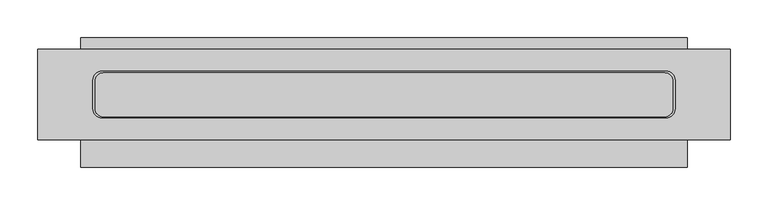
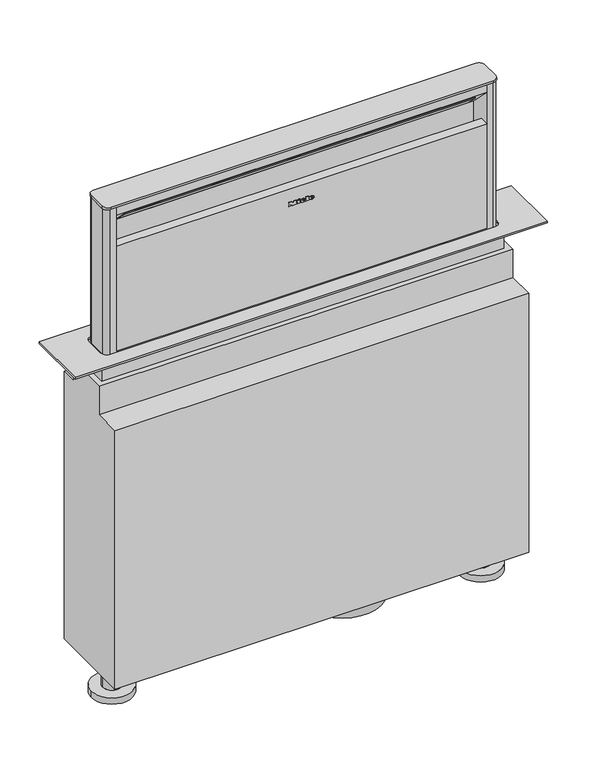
"""IFC4 building model written with IfcOpenShell, lengths in millimetres: proxy geometry, 12963280_CH_DAD4370_OBSW : 28D4370B_CH_12963280_DAD4370_OBSW."""

from ifc_helpers import new_model, si_unit, point, frame, frame_2d, origin, origin_with_axes, place, context, project, spatial, polyline, circle_curve, ellipse_curve, trimmed, segment, composite_curve, outline, extrude, faceted_brep, source, transform, mapped, element, save
from ifc_brep_helpers import plane_surface, cylinder_surface, revolved_surface, extruded_surface, advanced_brep


def specialty_equipment_7072770c(model_context):
    return source(origin(), model_context, "Body", "SolidModel", [
        extrude(outline(polyline([(190.696, -25.0), (190.696, -24.032), (185.344, -24.032), (185.344, -25.0), (184.0, -25.0), (184.0, -21.48), (185.344, -21.48), (185.344, -22.44), (188.7471247, -22.44), (184.0, -18.864), (188.8152223, -15.272), (185.344, -15.272), (185.344, -16.256), (184.0, -16.256), (184.0, -9.872), (185.344, -9.872), (185.344, -10.888), (190.696, -10.888), (190.696, -9.872), (192.0, -9.872), (192.0, -14.744), (189.0, -17.08), (192.0, -19.424), (192.0, -25.0), (190.696, -25.0)])), frame((0.0, -104.0, 0.0), z_axis=(0.0, 1.0, 0.0), x_axis=(0.0, 0.0, 1.0)), (0.0, 0.0, 1.0), 1.0),
        extrude(outline(polyline([(190.696, 7.464), (190.696, 8.424), (185.344, 8.424), (185.344, 7.464), (184.0, 7.464), (184.0, 13.952), (185.344, 13.952), (185.344, 12.968), (192.0, 12.968), (192.0, 7.464), (190.696, 7.464)])), frame((0.0, -104.0, 0.0), z_axis=(0.0, 1.0, 0.0), x_axis=(0.0, 0.0, 1.0)), (0.0, 0.0, 1.0), 1.0),
        extrude(outline(polyline([(191.528, -7.08), (190.232, -6.472), (191.496, -3.76), (192.792, -4.36), (191.528, -7.08)])), frame((0.0, -104.0, 0.0), z_axis=(0.0, 1.0, 0.0), x_axis=(0.0, 0.0, 1.0)), (0.0, 0.0, 1.0), 1.0),
        extrude(outline(polyline([(190.056, -9.056), (188.624, -9.056), (188.624, -8.104), (185.344, -8.104), (185.344, -9.056), (184.0, -9.056), (184.0, -2.744), (185.344, -2.744), (185.344, -3.672), (190.056, -3.672), (190.056, -9.056)])), frame((0.0, -104.0, 0.0), z_axis=(0.0, 1.0, 0.0), x_axis=(0.0, 0.0, 1.0)), (0.0, 0.0, 1.0), 1.0),
        advanced_brep(
        [(1.664, -104.0, 185.896), (1.664, -104.0, 186.704), (7.016, -104.0, 186.704), (-2.296, -104.0, 186.704), (-0.096, -104.0, 184.0), (6.88, -104.0, 185.896), (4.464, -104.0, 185.896), (2.56, -104.0, 185.0), (1.664, -104.0, 187.728), (1.664, -104.0, 188.6), (3.032, -104.0, 188.6), (3.032, -104.0, 187.728), (1.664, -103.0, 185.896), (2.56, -103.0, 185.0), (4.464, -103.0, 185.896), (6.88, -103.0, 185.896), (-0.096, -103.0, 184.0), (-2.296, -103.0, 186.704), (7.016, -103.0, 186.704), (1.664, -103.0, 186.704), (1.664, -103.0, 187.728), (3.032, -103.0, 187.728), (3.032, -103.0, 188.6), (1.664, -103.0, 188.6)],
        [
            (0, 1),
            (1, 2),
            (2, 3, ellipse_curve(frame((2.36, -104.0, 186.704), z_axis=(0.0, -1.0, 0.0), x_axis=(-1.0, 0.0, 0.0)), 4.656, 3.848)),
            (3, 4, circle_curve(frame((0.8000436, -104.0, 186.976), z_axis=(0.0, -1.0, 0.0), x_axis=(0.0, 0.0, -1.0)), 3.1079688)),
            (4, 5, circle_curve(frame((2.2667936, -104.0, 189.088), z_axis=(0.0, -1.0, 0.0), x_axis=(0.0, 0.0, -1.0)), 5.6098607)),
            (5, 6),
            (6, 7, circle_curve(frame((2.9510588, -104.0, 186.64), z_axis=(0.0, 1.0, 0.0), x_axis=(0.0, 0.0, -1.0)), 1.6859795)),
            (7, 0, circle_curve(frame((2.56, -104.0, 185.896), z_axis=(0.0, 1.0, 0.0), x_axis=(0.0, 0.0, -1.0)), 0.896)),
            (8, 9),
            (9, 10, circle_curve(frame((2.348, -104.0, 188.6), z_axis=(0.0, 1.0, 0.0), x_axis=(0.0, 0.0, -1.0)), 0.684)),
            (10, 11),
            (11, 8),
            (12, 13, circle_curve(frame((2.56, -103.0, 185.896), z_axis=(0.0, -1.0, 0.0), x_axis=(0.0, 0.0, -1.0)), 0.896)),
            (13, 14, circle_curve(frame((2.9510588, -103.0, 186.64), z_axis=(0.0, -1.0, 0.0), x_axis=(0.0, 0.0, -1.0)), 1.6859795)),
            (14, 15),
            (15, 16, circle_curve(frame((2.2667936, -103.0, 189.088), z_axis=(0.0, 1.0, 0.0), x_axis=(0.0, 0.0, -1.0)), 5.6098607)),
            (16, 17, circle_curve(frame((0.8000436, -103.0, 186.976), z_axis=(0.0, 1.0, 0.0), x_axis=(0.0, 0.0, -1.0)), 3.1079688)),
            (17, 18, ellipse_curve(frame((2.36, -103.0, 186.704), z_axis=(0.0, 1.0, 0.0), x_axis=(-1.0, 0.0, 0.0)), 4.656, 3.848)),
            (18, 19),
            (19, 12),
            (20, 21),
            (21, 22),
            (22, 23, circle_curve(frame((2.348, -103.0, 188.6), z_axis=(0.0, -1.0, 0.0), x_axis=(0.0, 0.0, -1.0)), 0.684)),
            (23, 20),
            (0, 12),
            (19, 1),
            (18, 2),
            (5, 15),
            (14, 6),
            (17, 3),
            (13, 7),
            (16, 4),
            (8, 20),
            (23, 9),
            (22, 10),
            (21, 11),
        ],
        [
            plane_surface(frame((1.664, -104.0, 186.704), z_axis=(0.0, -1.0, 0.0), x_axis=(0.0, 0.0, 1.0))),
            plane_surface(frame((1.664, -103.0, 186.704), z_axis=(0.0, 1.0, 0.0), x_axis=(0.0, 0.0, -1.0))),
            plane_surface(frame((1.664, -104.0, 185.896), z_axis=(1.0, 0.0, 0.0), x_axis=(0.0, 1.0, 0.0))),
            plane_surface(frame((1.664, -104.0, 186.704), z_axis=(0.0, 0.0, -1.0), x_axis=(0.0, 1.0, 0.0))),
            plane_surface(frame((6.88, -104.0, 185.896), z_axis=(0.0, 0.0, 1.0), x_axis=(0.0, 1.0, 0.0))),
            extruded_surface(trimmed(ellipse_curve(frame((2.36, -102.0, 186.704), z_axis=(0.0, -1.0, 0.0), x_axis=(-1.0, 0.0, 0.0)), 4.656, 3.848), [point((7.016, -102.0, 186.704))], [point((-2.296, -102.0, 186.704))], True, "CARTESIAN"), (0.0, -1.0, 0.0), 1.0),
            revolved_surface(polyline([(2.9510588, -103.0, 184.95402049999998), (2.9510588, -104.0, 184.95402049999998)]), (2.9510588, -103.0, 186.64), (0.0, 1.0, 0.0)),
            revolved_surface(polyline([(2.56, -103.0, 185.0), (2.56, -104.0, 185.0)]), (2.56, -103.0, 185.896), (0.0, 1.0, 0.0)),
            cylinder_surface(frame((0.8000436, -103.0, 186.976), z_axis=(0.0, -1.0, 0.0), x_axis=(0.0, 0.0, -1.0)), 3.1079688),
            cylinder_surface(frame((2.2667936, -103.0, 189.088), z_axis=(0.0, -1.0, 0.0), x_axis=(0.0, 0.0, -1.0)), 5.6098607),
            plane_surface(frame((1.664, -104.0, 187.728), z_axis=(1.0, 0.0, 0.0), x_axis=(0.0, 1.0, 0.0))),
            revolved_surface(polyline([(2.348, -103.0, 187.916), (2.348, -104.0, 187.916)]), (2.348, -103.0, 188.6), (0.0, 1.0, 0.0)),
            plane_surface(frame((3.032, -104.0, 188.6), z_axis=(-1.0, 0.0, 0.0), x_axis=(0.0, 1.0, 0.0))),
            plane_surface(frame((3.032, -104.0, 187.728), z_axis=(0.0, 0.0, 1.0), x_axis=(0.0, 1.0, 0.0))),
        ],
        [
            (0, [[1, 2, 3, 4, 5, 6, 7, 8], [9, 10, 11, 12]]),
            (1, [[13, 14, 15, 16, 17, 18, 19, 20], [21, 22, 23, 24]]),
            (2, [[-1, 25, -20, 26]]),
            (3, [[-2, -26, -19, 27]]),
            (4, [[-6, 28, -15, 29]]),
            (5, [[-3, -27, -18, 30]]),
            (6, [[-7, -29, -14, 31]]),
            (7, [[-8, -31, -13, -25]]),
            (8, [[-4, -30, -17, 32]]),
            (9, [[-5, -32, -16, -28]]),
            (10, [[-9, 33, -24, 34]]),
            (11, [[-10, -34, -23, 35]]),
            (12, [[-11, -35, -22, 36]]),
            (13, [[-12, -36, -21, -33]]),
        ],
    ),
        advanced_brep(
        [(18.36, -104.0, 185.896), (18.36, -104.0, 186.704), (23.712, -104.0, 186.704), (14.4, -104.0, 186.704), (16.6, -104.0, 184.0), (23.576, -104.0, 185.896), (21.16, -104.0, 185.896), (19.256, -104.0, 185.0), (18.36, -104.0, 187.728), (18.36, -104.0, 188.6), (19.728, -104.0, 188.6), (19.728, -104.0, 187.728), (18.36, -103.0, 185.896), (19.256, -103.0, 185.0), (21.16, -103.0, 185.896), (23.576, -103.0, 185.896), (16.6, -103.0, 184.0), (14.4, -103.0, 186.704), (23.712, -103.0, 186.704), (18.36, -103.0, 186.704), (18.36, -103.0, 187.728), (19.728, -103.0, 187.728), (19.728, -103.0, 188.6), (18.36, -103.0, 188.6)],
        [
            (0, 1),
            (1, 2),
            (2, 3, ellipse_curve(frame((19.056, -104.0, 186.704), z_axis=(0.0, -1.0, 0.0), x_axis=(-1.0, 0.0, 0.0)), 4.656, 3.848)),
            (3, 4, circle_curve(frame((17.4960436, -104.0, 186.976), z_axis=(0.0, -1.0, 0.0), x_axis=(0.0, 0.0, -1.0)), 3.1079688)),
            (4, 5, circle_curve(frame((18.9627936, -104.0, 189.088), z_axis=(0.0, -1.0, 0.0), x_axis=(0.0, 0.0, -1.0)), 5.6098607)),
            (5, 6),
            (6, 7, circle_curve(frame((19.6470588, -104.0, 186.64), z_axis=(0.0, 1.0, 0.0), x_axis=(0.0, 0.0, -1.0)), 1.6859795)),
            (7, 0, circle_curve(frame((19.256, -104.0, 185.896), z_axis=(0.0, 1.0, 0.0), x_axis=(0.0, 0.0, -1.0)), 0.896)),
            (8, 9),
            (9, 10, circle_curve(frame((19.044, -104.0, 188.6), z_axis=(0.0, 1.0, 0.0), x_axis=(0.0, 0.0, -1.0)), 0.684)),
            (10, 11),
            (11, 8),
            (12, 13, circle_curve(frame((19.256, -103.0, 185.896), z_axis=(0.0, -1.0, 0.0), x_axis=(0.0, 0.0, -1.0)), 0.896)),
            (13, 14, circle_curve(frame((19.6470588, -103.0, 186.64), z_axis=(0.0, -1.0, 0.0), x_axis=(0.0, 0.0, -1.0)), 1.6859795)),
            (14, 15),
            (15, 16, circle_curve(frame((18.9627936, -103.0, 189.088), z_axis=(0.0, 1.0, 0.0), x_axis=(0.0, 0.0, -1.0)), 5.6098607)),
            (16, 17, circle_curve(frame((17.4960436, -103.0, 186.976), z_axis=(0.0, 1.0, 0.0), x_axis=(0.0, 0.0, -1.0)), 3.1079688)),
            (17, 18, ellipse_curve(frame((19.056, -103.0, 186.704), z_axis=(0.0, 1.0, 0.0), x_axis=(-1.0, 0.0, 0.0)), 4.656, 3.848)),
            (18, 19),
            (19, 12),
            (20, 21),
            (21, 22),
            (22, 23, circle_curve(frame((19.044, -103.0, 188.6), z_axis=(0.0, -1.0, 0.0), x_axis=(0.0, 0.0, -1.0)), 0.684)),
            (23, 20),
            (0, 12),
            (19, 1),
            (18, 2),
            (5, 15),
            (14, 6),
            (17, 3),
            (13, 7),
            (16, 4),
            (8, 20),
            (23, 9),
            (22, 10),
            (21, 11),
        ],
        [
            plane_surface(frame((18.36, -104.0, 186.704), z_axis=(0.0, -1.0, 0.0), x_axis=(0.0, 0.0, 1.0))),
            plane_surface(frame((18.36, -103.0, 186.704), z_axis=(0.0, 1.0, 0.0), x_axis=(0.0, 0.0, -1.0))),
            plane_surface(frame((18.36, -104.0, 185.896), z_axis=(1.0, 0.0, 0.0), x_axis=(0.0, 1.0, 0.0))),
            plane_surface(frame((18.36, -104.0, 186.704), z_axis=(0.0, 0.0, -1.0), x_axis=(0.0, 1.0, 0.0))),
            plane_surface(frame((23.576, -104.0, 185.896), z_axis=(0.0, 0.0, 1.0), x_axis=(0.0, 1.0, 0.0))),
            extruded_surface(trimmed(ellipse_curve(frame((19.056, -102.0, 186.704), z_axis=(0.0, -1.0, 0.0), x_axis=(-1.0, 0.0, 0.0)), 4.656, 3.848), [point((23.712, -102.0, 186.704))], [point((14.4, -102.0, 186.704))], True, "CARTESIAN"), (0.0, -1.0, 0.0), 1.0),
            revolved_surface(polyline([(19.6470588, -103.0, 184.95402049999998), (19.6470588, -104.0, 184.95402049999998)]), (19.6470588, -103.0, 186.64), (0.0, 1.0, 0.0)),
            revolved_surface(polyline([(19.256, -103.0, 185.0), (19.256, -104.0, 185.0)]), (19.256, -103.0, 185.896), (0.0, 1.0, 0.0)),
            cylinder_surface(frame((17.4960436, -103.0, 186.976), z_axis=(0.0, -1.0, 0.0), x_axis=(0.0, 0.0, -1.0)), 3.1079688),
            cylinder_surface(frame((18.9627936, -103.0, 189.088), z_axis=(0.0, -1.0, 0.0), x_axis=(0.0, 0.0, -1.0)), 5.6098607),
            plane_surface(frame((18.36, -104.0, 187.728), z_axis=(1.0, 0.0, 0.0), x_axis=(0.0, 1.0, 0.0))),
            revolved_surface(polyline([(19.044, -103.0, 187.916), (19.044, -104.0, 187.916)]), (19.044, -103.0, 188.6), (0.0, 1.0, 0.0)),
            plane_surface(frame((19.728, -104.0, 188.6), z_axis=(-1.0, 0.0, 0.0), x_axis=(0.0, 1.0, 0.0))),
            plane_surface(frame((19.728, -104.0, 187.728), z_axis=(0.0, 0.0, 1.0), x_axis=(0.0, 1.0, 0.0))),
        ],
        [
            (0, [[1, 2, 3, 4, 5, 6, 7, 8], [9, 10, 11, 12]]),
            (1, [[13, 14, 15, 16, 17, 18, 19, 20], [21, 22, 23, 24]]),
            (2, [[-1, 25, -20, 26]]),
            (3, [[-2, -26, -19, 27]]),
            (4, [[-6, 28, -15, 29]]),
            (5, [[-3, -27, -18, 30]]),
            (6, [[-7, -29, -14, 31]]),
            (7, [[-8, -31, -13, -25]]),
            (8, [[-4, -30, -17, 32]]),
            (9, [[-5, -32, -16, -28]]),
            (10, [[-9, 33, -24, 34]]),
            (11, [[-10, -34, -23, 35]]),
            (12, [[-11, -35, -22, 36]]),
            (13, [[-12, -36, -21, -33]]),
        ],
    ),
        extrude(outline(composite_curve([segment(trimmed(circle_curve(frame_2d((89.2, -85.8647958)), 75.0), [point((14.2, -85.8647958))], [point((164.2, -85.8647958))], False, "CARTESIAN"), True, "CONTINUOUS"), segment(trimmed(circle_curve(frame_2d((89.2, -85.8647958)), 75.0), [point((164.2, -85.8647958))], [point((14.2, -85.8647958))], False, "CARTESIAN"), True, "CONTINUOUS")], self_intersect=False)), frame((0.0, 0.0, -659.0), z_axis=(0.0, 0.0, 1.0), x_axis=(1.0, 0.0, 0.0)), (0.0, 0.0, 1.0), 25.0),
        extrude(outline(composite_curve([segment(trimmed(circle_curve(frame_2d((371.1814118, -57.4008786)), 11.0228003), [point((371.1814118, -46.3780783))], [point((382.2042121, -57.4008786))], False, "CARTESIAN"), True, "CONTINUOUS"), segment(polyline([(382.2042121, -57.4008786), (382.2042121, -93.3997352)]), True, "CONTINUOUS"), segment(trimmed(circle_curve(frame_2d((371.225869, -93.3997352)), 10.9783431), [point((382.2042121, -93.3997352))], [point((371.225869, -104.3780783))], False, "CARTESIAN"), True, "CONTINUOUS"), segment(polyline([(371.225869, -104.3780783), (-371.2377642, -104.3780783)]), True, "CONTINUOUS"), segment(trimmed(circle_curve(frame_2d((-371.2377642, -93.4116304)), 10.9664479), [point((-371.2377642, -104.3780783))], [point((-382.2042121, -93.4116304))], False, "CARTESIAN"), True, "CONTINUOUS"), segment(polyline([(-382.2042121, -93.4116304), (-382.2042121, -57.3636674)]), True, "CONTINUOUS"), segment(trimmed(circle_curve(frame_2d((-371.218623, -57.3636674)), 10.9855891), [point((-382.2042121, -57.3636674))], [point((-371.218623, -46.3780783))], False, "CARTESIAN"), True, "CONTINUOUS"), segment(polyline([(-371.218623, -46.3780783), (371.1814118, -46.3780783)]), True, "CONTINUOUS")], self_intersect=False)), frame((0.0, 0.0, 299.5725648), z_axis=(0.0, 0.0, 1.0), x_axis=(1.0, 0.0, 0.0)), (0.0, 0.0, 1.0), 4.4274352),
        advanced_brep(
        [(371.2042121, -47.3780783, 299.5725648), (-371.2042121, -47.3780783, 299.5725648), (-381.2042121, -57.3780783, 299.5725648), (-381.2042121, -93.3780783, 299.5725648), (-371.2042121, -103.3780783, 299.5725648), (-359.9100986, -103.3780783, 299.5725648), (-359.9100986, -103.1609893, 299.5725648), (359.9100986, -103.1609893, 299.5725648), (359.9100986, -103.3780783, 299.5725648), (371.2042121, -103.3780783, 299.5725648), (381.2042121, -93.3780783, 299.5725648), (381.2042121, -57.3780783, 299.5725648), (371.2042121, -47.3780783, 0.0), (381.2042121, -57.3780783, 0.0), (381.2042121, -93.3780783, 0.0), (371.2042121, -103.3780783, 0.0), (-371.2042121, -103.3780783, 0.0), (-381.2042121, -93.3780783, 0.0), (-381.2042121, -57.3780783, 0.0), (-371.2042121, -47.3780783, 0.0), (359.9100986, -103.3780783, 4.0), (-359.9100986, -103.3780783, 4.0), (359.9100986, -58.0, 237.9815659), (359.9100986, -58.0, 147.0), (359.9100986, -79.1055209, 147.0), (359.9100986, -85.0, 219.0), (359.9100986, -103.1609893, 219.0), (359.9100986, -103.1609893, 4.0), (359.9100986, -103.1609893, 283.1425552), (-359.9100986, -85.0, 219.0), (-359.9100986, -79.1055209, 147.0), (-359.9100986, -58.0, 147.0), (-359.9100986, -58.0, 237.9815659), (-359.9100986, -103.1609893, 283.1425552), (-359.9100986, -103.1609893, 4.0), (-359.9100986, -103.1609893, 219.0)],
        [
            (0, 1),
            (1, 2, circle_curve(frame((-371.2042121, -57.3780783, 299.5725648), z_axis=(0.0, 0.0, 1.0), x_axis=(1.0, 0.0, 0.0)), 10.0)),
            (2, 3),
            (3, 4, circle_curve(frame((-371.2042121, -93.3780783, 299.5725648), z_axis=(0.0, 0.0, 1.0), x_axis=(1.0, 0.0, 0.0)), 10.0)),
            (4, 5),
            (5, 6),
            (6, 7),
            (7, 8),
            (8, 9),
            (9, 10, circle_curve(frame((371.2042121, -93.3780783, 299.5725648), z_axis=(0.0, 0.0, 1.0), x_axis=(1.0, 0.0, 0.0)), 10.0)),
            (10, 11),
            (11, 0, circle_curve(frame((371.2042121, -57.3780783, 299.5725648), z_axis=(0.0, 0.0, 1.0), x_axis=(1.0, 0.0, 0.0)), 10.0)),
            (12, 13, circle_curve(frame((371.2042121, -57.3780783, 0.0), z_axis=(0.0, 0.0, -1.0), x_axis=(1.0, 0.0, 0.0)), 10.0)),
            (13, 14),
            (14, 15, circle_curve(frame((371.2042121, -93.3780783, 0.0), z_axis=(0.0, 0.0, -1.0), x_axis=(1.0, 0.0, 0.0)), 10.0)),
            (15, 16),
            (16, 17, circle_curve(frame((-371.2042121, -93.3780783, 0.0), z_axis=(0.0, 0.0, -1.0), x_axis=(1.0, 0.0, 0.0)), 10.0)),
            (17, 18),
            (18, 19, circle_curve(frame((-371.2042121, -57.3780783, 0.0), z_axis=(0.0, 0.0, -1.0), x_axis=(1.0, 0.0, 0.0)), 10.0)),
            (19, 12),
            (0, 12),
            (19, 1),
            (2, 18),
            (17, 3),
            (15, 9),
            (8, 20),
            (20, 21),
            (21, 5),
            (4, 16),
            (10, 14),
            (13, 11),
            (22, 23),
            (23, 24),
            (24, 25),
            (25, 26),
            (26, 27),
            (27, 20),
            (7, 28),
            (28, 22),
            (29, 30),
            (30, 31),
            (31, 32),
            (32, 33),
            (33, 6),
            (21, 34),
            (34, 35),
            (35, 29),
            (32, 22),
            (28, 33),
            (25, 29),
            (35, 26),
            (24, 30),
            (23, 31),
            (34, 27),
        ],
        [
            plane_surface(frame((-371.2042121, -47.3780783, 299.5725648), z_axis=(0.0, 0.0, 1.0), x_axis=(-1.0, 0.0, 0.0))),
            plane_surface(frame((-371.2042121, -47.3780783, 0.0), z_axis=(0.0, 0.0, -1.0), x_axis=(1.0, 0.0, 0.0))),
            plane_surface(frame((371.2042121, -47.3780783, 299.5725648), z_axis=(0.0, 1.0, 0.0), x_axis=(0.0, 0.0, -1.0))),
            plane_surface(frame((-381.2042121, -57.3780783, 299.5725648), z_axis=(-1.0, 0.0, 0.0), x_axis=(0.0, 0.0, -1.0))),
            plane_surface(frame((-371.2042121, -103.3780783, 299.5725648), z_axis=(0.0, -1.0, 0.0), x_axis=(0.0, 0.0, -1.0))),
            plane_surface(frame((381.2042121, -93.3780783, 299.5725648), z_axis=(1.0, 0.0, 0.0), x_axis=(0.0, 0.0, -1.0))),
            cylinder_surface(frame((-371.2042121, -57.3780783, 0.0), z_axis=(0.0, 0.0, 1.0), x_axis=(1.0, 0.0, 0.0)), 10.0),
            cylinder_surface(frame((-371.2042121, -93.3780783, 0.0), z_axis=(0.0, 0.0, 1.0), x_axis=(1.0, 0.0, 0.0)), 10.0),
            cylinder_surface(frame((371.2042121, -93.3780783, 0.0), z_axis=(0.0, 0.0, 1.0), x_axis=(1.0, 0.0, 0.0)), 10.0),
            cylinder_surface(frame((371.2042121, -57.3780783, 0.0), z_axis=(0.0, 0.0, 1.0), x_axis=(1.0, 0.0, 0.0)), 10.0),
            plane_surface(frame((359.9100986, -94.4708552, 274.4524211), z_axis=(-1.0, 0.0, 0.0), x_axis=(0.0, -0.7071067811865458, 0.7071067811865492))),
            plane_surface(frame((-359.9100986, -94.4708552, 274.4524211), z_axis=(1.0, 0.0, 0.0), x_axis=(0.0, 0.7071067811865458, -0.7071067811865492))),
            plane_surface(frame((359.9100986, -58.0, 237.9815659), z_axis=(0.0, -0.7071067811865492, -0.7071067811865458), x_axis=(-1.0, 0.0, 0.0))),
            plane_surface(frame((359.9100986, -103.3780783, 219.0), z_axis=(0.0, 0.0, 1.0), x_axis=(-1.0, 0.0, 0.0))),
            plane_surface(frame((359.9100986, -85.0, 219.0), z_axis=(0.0, 0.9966655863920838, 0.08159478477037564), x_axis=(-1.0, 0.0, 0.0))),
            plane_surface(frame((359.9100986, -79.1055209, 147.0), z_axis=(0.0, 0.0, 1.0), x_axis=(-1.0, 0.0, 0.0))),
            plane_surface(frame((359.9100986, -58.0, 147.0), z_axis=(0.0, -1.0, 0.0), x_axis=(-1.0, 0.0, 0.0))),
            plane_surface(frame((268.1830979, -103.1609893, 4.0), z_axis=(0.0, -1.0, 0.0), x_axis=(-1.0, 0.0, 0.0))),
            plane_surface(frame((-359.9100986, -103.3780783, 4.0), z_axis=(0.0, 0.0, 1.0), x_axis=(0.0, 1.0, 0.0))),
        ],
        [
            (0, [[1, 2, 3, 4, 5, 6, 7, 8, 9, 10, 11, 12]]),
            (1, [[13, 14, 15, 16, 17, 18, 19, 20]]),
            (2, [[-1, 21, -20, 22]]),
            (3, [[-3, 23, -18, 24]]),
            (4, [[-16, 25, -9, 26, 27, 28, -5, 29]]),
            (5, [[-11, 30, -14, 31]]),
            (6, [[-2, -22, -19, -23]]),
            (7, [[-4, -24, -17, -29]]),
            (8, [[-10, -25, -15, -30]]),
            (9, [[-12, -31, -13, -21]]),
            (10, [[32, 33, 34, 35, 36, 37, -26, -8, 38, 39]]),
            (11, [[40, 41, 42, 43, 44, -6, -28, 45, 46, 47]]),
            (12, [[48, -39, 49, -43]]),
            (13, [[50, -47, 51, -35]]),
            (14, [[-34, 52, -40, -50]]),
            (15, [[-33, 53, -41, -52]]),
            (16, [[-32, -48, -42, -53]]),
            (17, [[-38, -7, -44, -49]]),
            (17, [[54, -36, -51, -46]]),
            (18, [[-54, -45, -27, -37]]),
        ],
    ),
        faceted_brep([(401.4936189, -32.3, -45.0), (-401.4936189, -32.3, -45.0), (-401.4936189, -117.7, -45.0), (401.4936189, -117.7, -45.0), (-390.0, -43.0, -45.0), (390.0, -43.0, -45.0), (390.0, -107.0, -45.0), (-390.0, -107.0, -45.0), (401.4936189, 0.0, -634.0), (401.4936189, -171.0, -634.0), (-401.4936189, -171.0, -634.0), (-401.4936189, 0.0, -634.0), (-401.4936189, 0.0, -85.0), (401.4936189, 0.0, -85.0), (401.4936189, -171.0, -103.0), (-401.4936189, -171.0, -103.0), (390.0, -43.0, 0.0), (-390.0, -43.0, 0.0), (-390.0, -107.0, 0.0), (390.0, -107.0, 0.0), (-401.4936189, -117.7, -103.0), (-401.4936189, -32.3, -85.0), (401.4936189, -32.3, -85.0), (401.4936189, -117.7, -103.0)], [[[0, 1, 2, 3], [4, 5, 6, 7]], [[8, 9, 10, 11]], [[8, 11, 12, 13]], [[10, 9, 14, 15]], [[16, 17, 18, 19]], [[17, 16, 5, 4]], [[18, 17, 4, 7]], [[19, 18, 7, 6]], [[16, 19, 6, 5]], [[11, 10, 15, 20, 2, 1, 21, 12]], [[9, 8, 13, 22, 0, 3, 23, 14]], [[23, 20, 15, 14]], [[20, 23, 3, 2]], [[22, 21, 1, 0]], [[21, 22, 13, 12]]]),
        extrude(outline(polyline([(458.0, -15.0), (458.0, -135.0), (-458.0, -135.0), (-458.0, -15.0), (458.0, -15.0)]), holes=[composite_curve([segment(polyline([(373.1343386, -44.0), (-373.0956327, -44.0)]), True, "CONTINUOUS"), segment(trimmed(circle_curve(frame_2d((-373.0956327, -56.0)), 12.0), [point((-373.0956327, -44.0))], [point((-385.0956327, -56.0))], True, "CARTESIAN"), True, "CONTINUOUS"), segment(polyline([(-385.0956327, -56.0), (-385.0956327, -94.0)]), True, "CONTINUOUS"), segment(trimmed(circle_curve(frame_2d((-373.0956327, -94.0)), 12.0), [point((-385.0956327, -94.0))], [point((-373.0956327, -106.0))], True, "CARTESIAN"), True, "CONTINUOUS"), segment(polyline([(-373.0956327, -106.0), (373.0753112, -106.0)]), True, "CONTINUOUS"), segment(trimmed(circle_curve(frame_2d((373.0753112, -93.9796784)), 12.0203216), [point((373.0753112, -106.0))], [point((385.0956327, -93.9796784))], True, "CARTESIAN"), True, "CONTINUOUS"), segment(polyline([(385.0956327, -93.9796784), (385.0956327, -55.9612941)]), True, "CONTINUOUS"), segment(trimmed(circle_curve(frame_2d((373.1343386, -55.9612941)), 11.9612941), [point((385.0956327, -55.9612941))], [point((373.1343386, -44.0))], True, "CARTESIAN"), True, "CONTINUOUS")], self_intersect=False)]), origin_with_axes(), (0.0, 0.0, 1.0), 4.0),
        extrude(outline(polyline([(36.0, 0.0), (36.0, -680.0), (0.0, -680.0), (0.0, 0.0), (36.0, 0.0)])), frame((-337.8937642, -94.5300953, 272.3903409), z_axis=(0.0, 0.7071067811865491, 0.707106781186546), x_axis=(0.0, 0.707106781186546, -0.7071067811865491)), (0.0, 0.0, 1.0), 1.5),
        advanced_brep(
        [(317.7840925, -85.0, -704.0), (397.7840925, -85.0, -704.0), (317.7840925, -85.0, -691.0), (397.7840925, -85.0, -691.0), (375.2840925, -85.0, -691.0), (340.2840925, -85.0, -691.0), (340.2840925, -85.0, -634.0), (375.2840925, -85.0, -634.0)],
        [
            (0, 1, circle_curve(frame((357.7840925, -85.0, -704.0), z_axis=(0.0, 0.0, -1.0), x_axis=(1.0, 0.0, 0.0)), 40.0)),
            (1, 0, circle_curve(frame((357.7840925, -85.0, -704.0), z_axis=(0.0, 0.0, -1.0), x_axis=(1.0, 0.0, 0.0)), 40.0)),
            (2, 3, circle_curve(frame((357.7840925, -85.0, -691.0), z_axis=(0.0, 0.0, 1.0), x_axis=(1.0, 0.0, 0.0)), 40.0)),
            (3, 2, circle_curve(frame((357.7840925, -85.0, -691.0), z_axis=(0.0, 0.0, 1.0), x_axis=(1.0, 0.0, 0.0)), 40.0)),
            (4, 5, circle_curve(frame((357.7840925, -85.0, -691.0), z_axis=(0.0, 0.0, -1.0), x_axis=(1.0, 0.0, 0.0)), 17.5)),
            (5, 4, circle_curve(frame((357.7840925, -85.0, -691.0), z_axis=(0.0, 0.0, -1.0), x_axis=(1.0, 0.0, 0.0)), 17.5)),
            (1, 3),
            (2, 0),
            (6, 7, circle_curve(frame((357.7840925, -85.0, -634.0), z_axis=(0.0, 0.0, 1.0), x_axis=(1.0, 0.0, 0.0)), 17.5)),
            (7, 6, circle_curve(frame((357.7840925, -85.0, -634.0), z_axis=(0.0, 0.0, 1.0), x_axis=(1.0, 0.0, 0.0)), 17.5)),
            (6, 5),
            (4, 7),
        ],
        [
            plane_surface(frame((397.7840925, -85.0, -704.0), z_axis=(0.0, 0.0, -1.0), x_axis=(0.0, -1.0, 0.0))),
            plane_surface(frame((397.7840925, -85.0, -691.0), z_axis=(0.0, 0.0, 1.0), x_axis=(0.0, 1.0, 0.0))),
            cylinder_surface(frame((357.7840925, -85.0, -704.0), z_axis=(0.0, 0.0, 1.0), x_axis=(1.0, 0.0, 0.0)), 40.0),
            plane_surface(frame((375.2840925, -85.0, -634.0), z_axis=(0.0, 0.0, 1.0), x_axis=(0.0, 1.0, 0.0))),
            cylinder_surface(frame((357.7840925, -85.0, -704.0), z_axis=(0.0, 0.0, 1.0), x_axis=(1.0, 0.0, 0.0)), 17.5),
        ],
        [
            (0, [[1, 2]]),
            (1, [[3, 4], [5, 6]]),
            (2, [[-2, 7, -3, 8]]),
            (2, [[-1, -8, -4, -7]]),
            (3, [[9, 10]]),
            (4, [[-9, 11, -5, 12]]),
            (4, [[-10, -12, -6, -11]]),
        ],
    ),
        advanced_brep(
        [(-397.7840925, -85.0, -704.0), (-317.7840925, -85.0, -704.0), (-397.7840925, -85.0, -691.0), (-317.7840925, -85.0, -691.0), (-340.2840925, -85.0, -691.0), (-375.2840925, -85.0, -691.0), (-375.2840925, -85.0, -634.0), (-340.2840925, -85.0, -634.0)],
        [
            (0, 1, circle_curve(frame((-357.7840925, -85.0, -704.0), z_axis=(0.0, 0.0, -1.0), x_axis=(1.0, 0.0, 0.0)), 40.0)),
            (1, 0, circle_curve(frame((-357.7840925, -85.0, -704.0), z_axis=(0.0, 0.0, -1.0), x_axis=(1.0, 0.0, 0.0)), 40.0)),
            (2, 3, circle_curve(frame((-357.7840925, -85.0, -691.0), z_axis=(0.0, 0.0, 1.0), x_axis=(1.0, 0.0, 0.0)), 40.0)),
            (3, 2, circle_curve(frame((-357.7840925, -85.0, -691.0), z_axis=(0.0, 0.0, 1.0), x_axis=(1.0, 0.0, 0.0)), 40.0)),
            (4, 5, circle_curve(frame((-357.7840925, -85.0, -691.0), z_axis=(0.0, 0.0, -1.0), x_axis=(1.0, 0.0, 0.0)), 17.5)),
            (5, 4, circle_curve(frame((-357.7840925, -85.0, -691.0), z_axis=(0.0, 0.0, -1.0), x_axis=(1.0, 0.0, 0.0)), 17.5)),
            (1, 3),
            (2, 0),
            (6, 7, circle_curve(frame((-357.7840925, -85.0, -634.0), z_axis=(0.0, 0.0, 1.0), x_axis=(1.0, 0.0, 0.0)), 17.5)),
            (7, 6, circle_curve(frame((-357.7840925, -85.0, -634.0), z_axis=(0.0, 0.0, 1.0), x_axis=(1.0, 0.0, 0.0)), 17.5)),
            (6, 5),
            (4, 7),
        ],
        [
            plane_surface(frame((397.7840925, -85.0, -704.0), z_axis=(0.0, 0.0, -1.0), x_axis=(0.0, -1.0, 0.0))),
            plane_surface(frame((397.7840925, -85.0, -691.0), z_axis=(0.0, 0.0, 1.0), x_axis=(0.0, 1.0, 0.0))),
            cylinder_surface(frame((-357.7840925, -85.0, 0.0), z_axis=(0.0, 0.0, 1.0), x_axis=(1.0, 0.0, 0.0)), 40.0),
            plane_surface(frame((375.2840925, -85.0, -634.0), z_axis=(0.0, 0.0, 1.0), x_axis=(0.0, 1.0, 0.0))),
            cylinder_surface(frame((-357.7840925, -85.0, 0.0), z_axis=(0.0, 0.0, 1.0), x_axis=(1.0, 0.0, 0.0)), 17.5),
        ],
        [
            (0, [[1, 2]]),
            (1, [[3, 4], [5, 6]]),
            (2, [[-2, 7, -3, 8]]),
            (2, [[-1, -8, -4, -7]]),
            (3, [[9, 10]]),
            (4, [[-9, 11, -5, 12]]),
            (4, [[-10, -12, -6, -11]]),
        ],
    ),
        extrude(outline(polyline([(128.1229997, -107.0940037), (121.4888611, -107.0940037), (115.7499019, -91.3977052), (95.0626711, -91.3977052), (89.3114492, -107.0940037), (82.6773106, -107.0940037), (102.7268793, -56.8658486), (108.073431, -56.8658486), (128.1229997, -107.0940037)]), holes=[polyline([(113.4445081, -85.1191858), (108.5271521, -71.691493), (105.4001551, -63.144368), (101.8807507, -72.7706135), (97.3558022, -85.1191858), (113.4445081, -85.1191858)])]), frame((0.0, 0.0, -664.0), z_axis=(0.0, 0.0, 1.0), x_axis=(1.0, 0.0, 0.0)), (0.0, 0.0, 1.0), 5.0),
        extrude(outline(polyline([(75.9695955, -107.0940037), (44.5769986, -107.0940037), (44.5769986, -100.8154843), (69.6910761, -100.8154843), (69.6910761, -56.8658486), (75.9695955, -56.8658486), (75.9695955, -107.0940037)])), frame((0.0, 0.0, -664.0), z_axis=(0.0, 0.0, 1.0), x_axis=(1.0, 0.0, 0.0)), (0.0, 0.0, 1.0), 5.0),
        extrude(outline(composite_curve([segment(trimmed(circle_curve(frame_2d((-234.0, -18.0)), 7.5), [point((-241.5, -18.0))], [point((-226.5, -18.0))], False, "CARTESIAN"), True, "CONTINUOUS"), segment(trimmed(circle_curve(frame_2d((-234.0, -18.0)), 7.5), [point((-226.5, -18.0))], [point((-241.5, -18.0))], False, "CARTESIAN"), True, "CONTINUOUS")], self_intersect=False)), frame((0.0, 0.0, -648.6593305), z_axis=(0.0, 0.0, 1.0), x_axis=(1.0, 0.0, 0.0)), (0.0, 0.0, 1.0), 14.6593305),
        extrude(outline(polyline([(-226.6227397, -22.8890246), (-234.0, -22.8890246), (-234.0, -21.6333207), (-227.8784436, -21.6333207), (-227.8784436, -18.337098), (-233.529111, -18.337098), (-233.529111, -17.0813942), (-227.8784436, -17.0813942), (-227.8784436, -14.0990974), (-233.843037, -14.0990974), (-233.843037, -12.8433936), (-226.6227397, -12.8433936), (-226.6227397, -22.8890246)])), frame((0.0, 0.0, -649.6593305), z_axis=(0.0, 0.0, 1.0), x_axis=(1.0, 0.0, 0.0)), (0.0, 0.0, 1.0), 1.0),
        extrude(outline(polyline([(-235.8835558, -22.8890246), (-242.1620752, -22.8890246), (-242.1620752, -21.6333207), (-237.1392597, -21.6333207), (-237.1392597, -12.8433936), (-235.8835558, -12.8433936), (-235.8835558, -22.8890246)])), frame((0.0, 0.0, -649.6593305), z_axis=(0.0, 0.0, 1.0), x_axis=(1.0, 0.0, 0.0)), (0.0, 0.0, 1.0), 1.0),
    ])


if __name__ == "__main__":
    model = new_model("IFC4")
    model_context = context("Model", 3, world=origin())
    ifc_project = project(units=[si_unit("LENGTHUNIT", "METRE", prefix="MILLI")], contexts=[model_context])
    site = spatial("IfcSite", under=ifc_project)
    building = spatial("IfcBuilding", under=site)
    placement = place(None, origin())
    specialty_equipment_shape = specialty_equipment_7072770c(model_context)
    element("IfcBuildingElementProxy", 1, Name="12963280_CH_DAD4370_OBSW : 28D4370B_CH_12963280_DAD4370_OBSW", ObjectType="12963280_CH_DAD4370_OBSW : 28D4370B_CH_12963280_DAD4370_OBSW", at=placement, inside=building, context=model_context, shape_type="MappedRepresentation", body=[
        mapped(specialty_equipment_shape, transform((0.0, 0.0, 0.0), x_axis=(1.0, 0.0, 0.0), y_axis=(0.0, 1.0, 0.0), z_axis=(0.0, 0.0, 1.0))),
    ])
    save(model, "model.ifc")
